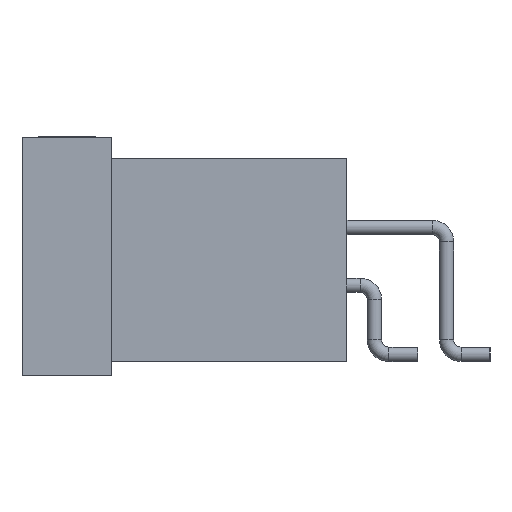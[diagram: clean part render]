
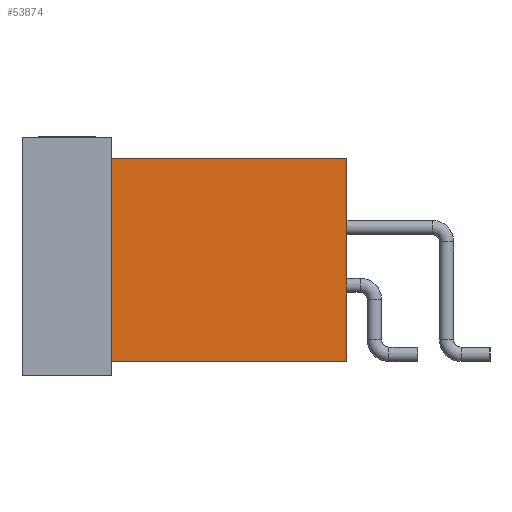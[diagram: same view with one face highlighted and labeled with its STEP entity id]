
A CAD part, left-side view. The second image highlights one B-rep face of the part: STEP entity #53874.
In plain terms, the highlighted planar face has unit normal (-1, 0, 0).
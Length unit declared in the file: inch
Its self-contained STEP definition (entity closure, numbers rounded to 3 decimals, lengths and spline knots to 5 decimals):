
#3320 = VERTEX_POINT ( 'NONE', #16452 ) ;
#3450 = EDGE_CURVE ( 'NONE', #3320, #55233, #16466, .T. ) ;
#3990 = CARTESIAN_POINT ( 'NONE',  ( -0.6625, -0.225, -0.14 ) ) ;
#16452 = CARTESIAN_POINT ( 'NONE',  ( -0.6625, -0.225, 0. ) ) ;
#16460 = DIRECTION ( 'NONE',  ( 0., 1., 0. ) ) ;
#16461 = VECTOR ( 'NONE', #16460, 39.37008 ) ;
#16466 = LINE ( 'NONE', #16469, #16461 ) ;
#16469 = CARTESIAN_POINT ( 'NONE',  ( -0.6625, -0.225, 0. ) ) ;
#18948 = LINE ( 'NONE', #19002, #19001 ) ;
#19000 = DIRECTION ( 'NONE',  ( 0., 1., 0. ) ) ;
#19001 = VECTOR ( 'NONE', #19000, 39.37008 ) ;
#19002 = CARTESIAN_POINT ( 'NONE',  ( -0.6625, -0.225, -0.14 ) ) ;
#19798 = PLANE ( 'NONE',  #19858 ) ;
#19827 = CARTESIAN_POINT ( 'NONE',  ( -0.6625, -0.225, 0. ) ) ;
#19829 = FACE_OUTER_BOUND ( 'NONE', #53869, .T. ) ;
#19852 = DIRECTION ( 'NONE',  ( 0., -1., 0. ) ) ;
#19853 = DIRECTION ( 'NONE',  ( -1., 0., 0. ) ) ;
#19858 = AXIS2_PLACEMENT_3D ( 'NONE', #19827, #19853, #19852 ) ;
#21532 = VERTEX_POINT ( 'NONE', #3990 ) ;
#26650 = CARTESIAN_POINT ( 'NONE',  ( -0.6625, -0.062, -0.14 ) ) ;
#26671 = CARTESIAN_POINT ( 'NONE',  ( -0.6625, -0.062, 0. ) ) ;
#26724 = LINE ( 'NONE', #26745, #26727 ) ;
#26727 = VECTOR ( 'NONE', #26747, 39.37008 ) ;
#26745 = CARTESIAN_POINT ( 'NONE',  ( -0.6625, -0.062, 0. ) ) ;
#26747 = DIRECTION ( 'NONE',  ( 0., 0., 1. ) ) ;
#37368 = ORIENTED_EDGE ( 'NONE', *, *, #48540, .F. ) ;
#37461 = EDGE_CURVE ( 'NONE', #21532, #3320, #63578, .T. ) ;
#37521 = ORIENTED_EDGE ( 'NONE', *, *, #55270, .F. ) ;
#37812 = ORIENTED_EDGE ( 'NONE', *, *, #37461, .T. ) ;
#48018 = ORIENTED_EDGE ( 'NONE', *, *, #3450, .T. ) ;
#48540 = EDGE_CURVE ( 'NONE', #21532, #55274, #18948, .T. ) ;
#53869 = EDGE_LOOP ( 'NONE', ( #37521, #37368, #37812, #48018 ) ) ;
#53874 = ADVANCED_FACE ( 'NONE', ( #19829 ), #19798, .T. ) ;
#55233 = VERTEX_POINT ( 'NONE', #26671 ) ;
#55270 = EDGE_CURVE ( 'NONE', #55274, #55233, #26724, .T. ) ;
#55274 = VERTEX_POINT ( 'NONE', #26650 ) ;
#63554 = DIRECTION ( 'NONE',  ( 0., 0., 1. ) ) ;
#63555 = CARTESIAN_POINT ( 'NONE',  ( -0.6625, -0.225, 0. ) ) ;
#63578 = LINE ( 'NONE', #63555, #63616 ) ;
#63616 = VECTOR ( 'NONE', #63554, 39.37008 ) ;
